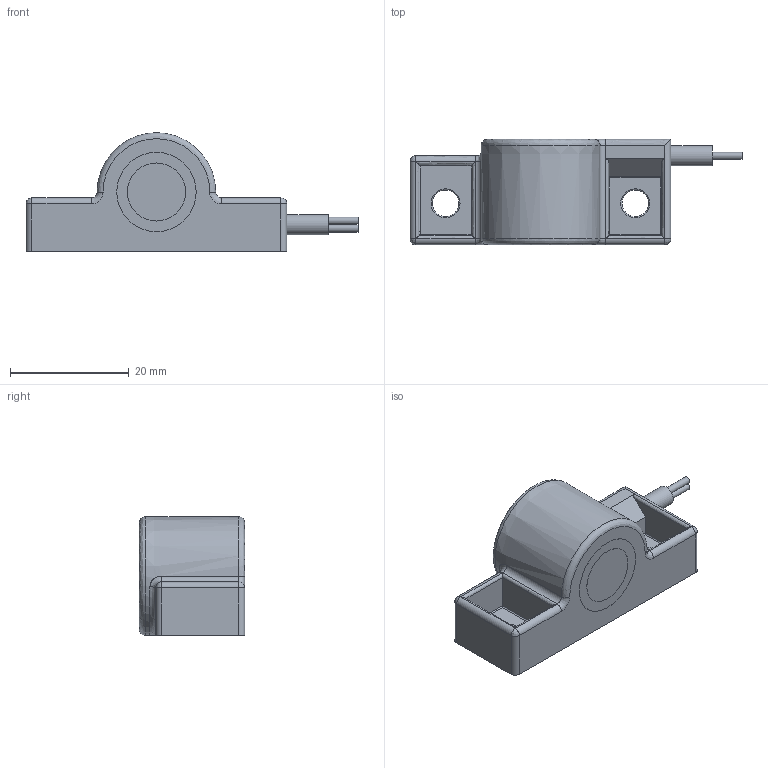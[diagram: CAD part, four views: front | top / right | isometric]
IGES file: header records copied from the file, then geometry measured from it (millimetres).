
Global section: file name: No Iges File Name specified; native system: AutoDesk Inventor R6.1; preprocessor: AutoDesk Inventor Iges Exporter R6.1; author: No Author specified; organization: No Organization specified; date: 20050810.113700; units: millimetre
Bounding box: 56 x 17.8 x 20 mm (x, y, z)
Surface area: 5122.7 mm2 (no closed solid volume)
Topology: 0 solids, 0 shells, 82 faces, 340 edges, 327 vertices
Faces by surface type: revolution 46, plane 32, bspline 4
